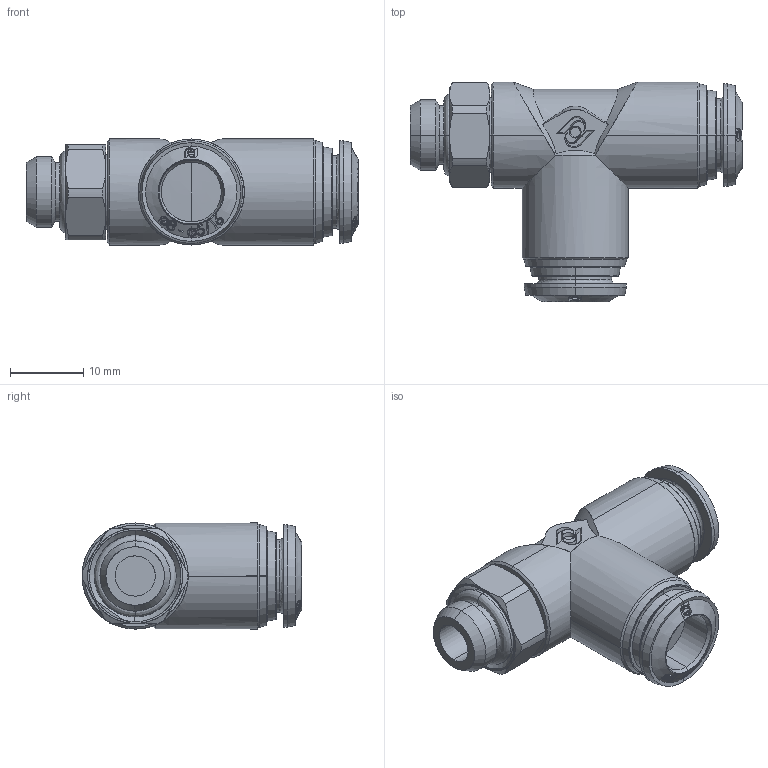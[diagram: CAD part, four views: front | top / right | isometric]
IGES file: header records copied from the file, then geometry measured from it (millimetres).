
Start section: SolidWorks IGES file using analytic representation for surfaces
Global section: file name: K:\Disegni Esecutivi\Serie 50000\ASSIEMI_50000\50226\ASSIEMI_PIENI_50226\5022600010.IGS; native system: SolidWorks 2008; preprocessor: SolidWorks 2008; author: cad02; date: 080523.095306; units: millimetre
Bounding box: 45.4 x 30.05 x 14.5 mm (x, y, z)
Surface area: 4105.9 mm2 (no closed solid volume)
Topology: 0 solids, 0 shells, 458 faces, 5179 edges, 5171 vertices
Faces by surface type: bspline 301, revolution 157
